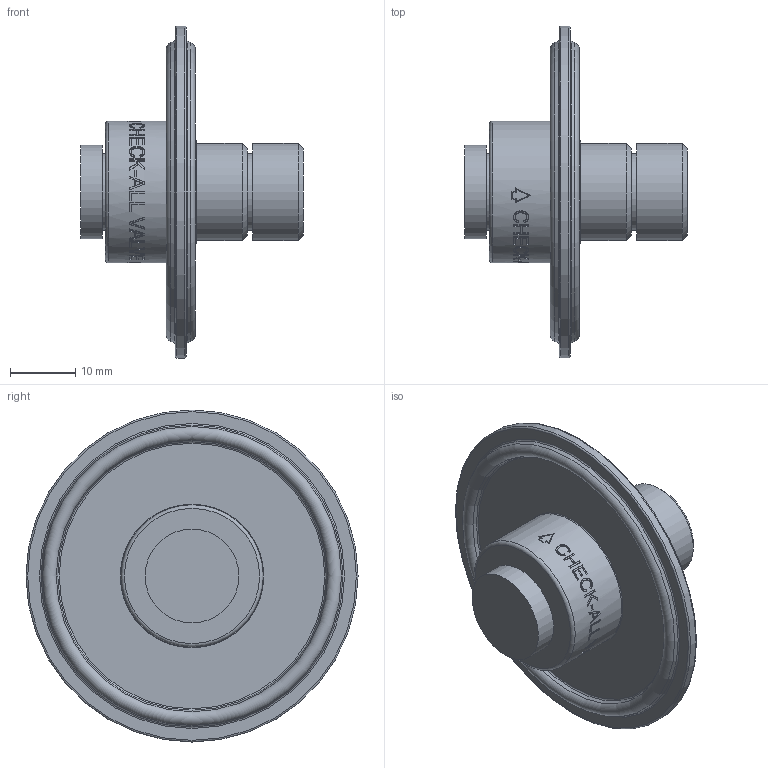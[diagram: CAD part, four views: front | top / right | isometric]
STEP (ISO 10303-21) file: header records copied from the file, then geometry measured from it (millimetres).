
FILE_DESCRIPTION( ( 'Unknown' ), '1' );
FILE_NAME( 'Y:/ENGR/3D Solid Edge Models/TC/Stp/TCH.stp', 'Unknown', ( 'Unknown' ), ( 'Unknown' ), 'PSStep 16.0.42', 'Unknown', ' ' );
FILE_SCHEMA( ( 'AUTOMOTIVE_DESIGN { 1 0 10303 214 1 1 1 1 }' ) );
Length unit declared in the file: millimetre
Products named in the file (1): 1
Bounding box: 34.06 x 50.8 x 50.8 mm (x, y, z)
Volume: 11806 mm3; surface area: 6550.3 mm2
Topology: 1 solids, 1 shells, 226 faces, 569 edges, 376 vertices
Faces by surface type: plane 132, bspline 45, cylinder 30, torus 12, cone 7
Full cylindrical faces by diameter (mm): 11.786 x2, 14.351 x1, 14.859 x2, 21.717 x1, 50.8 x1
Entity records: 9698 total; most frequent: CARTESIAN_POINT 3692, ORIENTED_EDGE 1068, EDGE_CURVE 534, B_SPLINE_CURVE_WITH_KNOTS 498, DIRECTION 436, VERTEX_POINT 368, EDGE_LOOP 284, FACE_OUTER_BOUND 245
